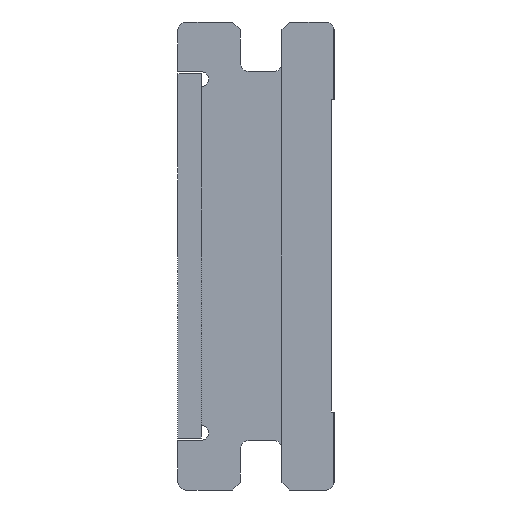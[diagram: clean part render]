
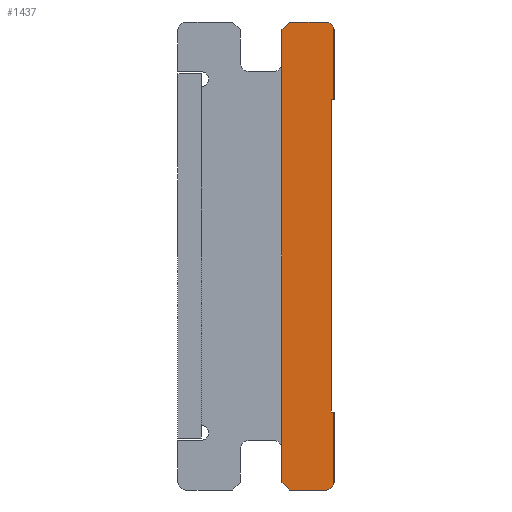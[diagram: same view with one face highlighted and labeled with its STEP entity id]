
A CAD part, left-side view. The second image highlights one B-rep face of the part: STEP entity #1437.
In plain terms, the highlighted planar face has unit normal (-1, 0, 0).
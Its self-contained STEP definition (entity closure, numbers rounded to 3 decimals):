
#40 = DIRECTION ( 'NONE',  ( 0., 0., 1. ) ) ;
#48 = CARTESIAN_POINT ( 'NONE',  ( 0., 5.1, -15.8 ) ) ;
#58 = DIRECTION ( 'NONE',  ( 0., 1., 0. ) ) ;
#59 = VERTEX_POINT ( 'NONE', #1578 ) ;
#109 = DIRECTION ( 'NONE',  ( 0., 1., 0. ) ) ;
#141 = LINE ( 'NONE', #884, #1672 ) ;
#187 = DIRECTION ( 'NONE',  ( 0., 0., -1. ) ) ;
#231 = FACE_OUTER_BOUND ( 'NONE', #2326, .T. ) ;
#240 = EDGE_CURVE ( 'NONE', #2107, #1531, #2189, .T. ) ;
#252 = CIRCLE ( 'NONE', #703, 0.3 ) ;
#373 = CARTESIAN_POINT ( 'NONE',  ( 0., 0.3, -18. ) ) ;
#378 = DIRECTION ( 'NONE',  ( 0., -1., 0. ) ) ;
#401 = PLANE ( 'NONE',  #774 ) ;
#437 = ORIENTED_EDGE ( 'NONE', *, *, #240, .F. ) ;
#458 = CARTESIAN_POINT ( 'NONE',  ( 0., 1.7, -18. ) ) ;
#469 = EDGE_CURVE ( 'NONE', #834, #2107, #1089, .T. ) ;
#484 = ORIENTED_EDGE ( 'NONE', *, *, #1894, .F. ) ;
#508 = VECTOR ( 'NONE', #109, 1000. ) ;
#509 = CARTESIAN_POINT ( 'NONE',  ( 0., 0.3, -18. ) ) ;
#514 = CARTESIAN_POINT ( 'NONE',  ( 0., 0.1, -3. ) ) ;
#515 = VECTOR ( 'NONE', #187, 1000. ) ;
#523 = LINE ( 'NONE', #1313, #1786 ) ;
#534 = CARTESIAN_POINT ( 'NONE',  ( 0., 0., -15. ) ) ;
#540 = CARTESIAN_POINT ( 'NONE',  ( 0., 0.3, -17.7 ) ) ;
#593 = CARTESIAN_POINT ( 'NONE',  ( 0., 0.3, -0.3 ) ) ;
#601 = EDGE_CURVE ( 'NONE', #1567, #1130, #2325, .T. ) ;
#627 = CARTESIAN_POINT ( 'NONE',  ( 0., 1.7, -18. ) ) ;
#643 = EDGE_CURVE ( 'NONE', #59, #1848, #252, .T. ) ;
#667 = ORIENTED_EDGE ( 'NONE', *, *, #2154, .F. ) ;
#668 = CARTESIAN_POINT ( 'NONE',  ( 0., 0., -15. ) ) ;
#703 = AXIS2_PLACEMENT_3D ( 'NONE', #593, #1364, #40 ) ;
#721 = CIRCLE ( 'NONE', #2417, 0.3 ) ;
#766 = ORIENTED_EDGE ( 'NONE', *, *, #1079, .F. ) ;
#770 = VERTEX_POINT ( 'NONE', #869 ) ;
#774 = AXIS2_PLACEMENT_3D ( 'NONE', #48, #1015, #58 ) ;
#778 = LINE ( 'NONE', #1909, #2225 ) ;
#834 = VERTEX_POINT ( 'NONE', #1722 ) ;
#869 = CARTESIAN_POINT ( 'NONE',  ( 0., 0., -3. ) ) ;
#884 = CARTESIAN_POINT ( 'NONE',  ( 0., 1.7, 0. ) ) ;
#928 = CARTESIAN_POINT ( 'NONE',  ( 0., 0.1, -3. ) ) ;
#934 = ORIENTED_EDGE ( 'NONE', *, *, #643, .F. ) ;
#938 = DIRECTION ( 'NONE',  ( 0., -1., 0. ) ) ;
#966 = CARTESIAN_POINT ( 'NONE',  ( 0., 2., -17.7 ) ) ;
#967 = VECTOR ( 'NONE', #1265, 1000. ) ;
#1015 = DIRECTION ( 'NONE',  ( 1., 0., 0. ) ) ;
#1079 = EDGE_CURVE ( 'NONE', #1531, #1342, #721, .T. ) ;
#1084 = EDGE_CURVE ( 'NONE', #1581, #1567, #2305, .T. ) ;
#1089 = LINE ( 'NONE', #534, #1624 ) ;
#1114 = ORIENTED_EDGE ( 'NONE', *, *, #469, .F. ) ;
#1122 = LINE ( 'NONE', #928, #515 ) ;
#1130 = VERTEX_POINT ( 'NONE', #1938 ) ;
#1133 = VECTOR ( 'NONE', #1588, 1000. ) ;
#1206 = CARTESIAN_POINT ( 'NONE',  ( 0., 2., -17.7 ) ) ;
#1265 = DIRECTION ( 'NONE',  ( 0., 1., 0. ) ) ;
#1311 = DIRECTION ( 'NONE',  ( 1., 0., 0. ) ) ;
#1313 = CARTESIAN_POINT ( 'NONE',  ( 0., 0., -0.3 ) ) ;
#1342 = VERTEX_POINT ( 'NONE', #373 ) ;
#1353 = ORIENTED_EDGE ( 'NONE', *, *, #2381, .F. ) ;
#1364 = DIRECTION ( 'NONE',  ( 1., 0., 0. ) ) ;
#1378 = DIRECTION ( 'NONE',  ( 0., 0.707, 0.707 ) ) ;
#1423 = CARTESIAN_POINT ( 'NONE',  ( 0., 0., -15. ) ) ;
#1437 = ADVANCED_FACE ( 'NONE', ( #231 ), #401, .F. ) ;
#1476 = ORIENTED_EDGE ( 'NONE', *, *, #1084, .F. ) ;
#1499 = VECTOR ( 'NONE', #2179, 1000. ) ;
#1531 = VERTEX_POINT ( 'NONE', #2067 ) ;
#1567 = VERTEX_POINT ( 'NONE', #966 ) ;
#1578 = CARTESIAN_POINT ( 'NONE',  ( 0., 0.3, 0. ) ) ;
#1581 = VERTEX_POINT ( 'NONE', #458 ) ;
#1588 = DIRECTION ( 'NONE',  ( 0., 0., 1. ) ) ;
#1624 = VECTOR ( 'NONE', #378, 1000. ) ;
#1625 = LINE ( 'NONE', #509, #508 ) ;
#1647 = LINE ( 'NONE', #1990, #967 ) ;
#1672 = VECTOR ( 'NONE', #2219, 1000. ) ;
#1693 = DIRECTION ( 'NONE',  ( 0., 0., -1. ) ) ;
#1710 = VERTEX_POINT ( 'NONE', #514 ) ;
#1722 = CARTESIAN_POINT ( 'NONE',  ( 0., 0.1, -15. ) ) ;
#1743 = ORIENTED_EDGE ( 'NONE', *, *, #1977, .F. ) ;
#1768 = CARTESIAN_POINT ( 'NONE',  ( 0., 0., -0.3 ) ) ;
#1786 = VECTOR ( 'NONE', #2441, 1000. ) ;
#1848 = VERTEX_POINT ( 'NONE', #1768 ) ;
#1894 = EDGE_CURVE ( 'NONE', #1130, #1926, #141, .T. ) ;
#1909 = CARTESIAN_POINT ( 'NONE',  ( 0., 0.3, 0. ) ) ;
#1926 = VERTEX_POINT ( 'NONE', #2432 ) ;
#1938 = CARTESIAN_POINT ( 'NONE',  ( 0., 2., -0.3 ) ) ;
#1942 = EDGE_CURVE ( 'NONE', #1926, #59, #778, .T. ) ;
#1977 = EDGE_CURVE ( 'NONE', #1710, #834, #1122, .T. ) ;
#1990 = CARTESIAN_POINT ( 'NONE',  ( 0., 0., -3. ) ) ;
#2021 = ORIENTED_EDGE ( 'NONE', *, *, #2114, .F. ) ;
#2066 = ORIENTED_EDGE ( 'NONE', *, *, #1942, .F. ) ;
#2067 = CARTESIAN_POINT ( 'NONE',  ( 0., 0., -17.7 ) ) ;
#2107 = VERTEX_POINT ( 'NONE', #1423 ) ;
#2112 = VECTOR ( 'NONE', #1378, 1000. ) ;
#2114 = EDGE_CURVE ( 'NONE', #770, #1710, #1647, .T. ) ;
#2154 = EDGE_CURVE ( 'NONE', #1342, #1581, #1625, .T. ) ;
#2179 = DIRECTION ( 'NONE',  ( 0., 0., -1. ) ) ;
#2189 = LINE ( 'NONE', #668, #1499 ) ;
#2219 = DIRECTION ( 'NONE',  ( 0., -0.707, 0.707 ) ) ;
#2225 = VECTOR ( 'NONE', #938, 1000. ) ;
#2305 = LINE ( 'NONE', #627, #2112 ) ;
#2325 = LINE ( 'NONE', #1206, #1133 ) ;
#2326 = EDGE_LOOP ( 'NONE', ( #484, #2427, #1476, #667, #766, #437, #1114, #1743, #2021, #1353, #934, #2066 ) ) ;
#2381 = EDGE_CURVE ( 'NONE', #1848, #770, #523, .T. ) ;
#2417 = AXIS2_PLACEMENT_3D ( 'NONE', #540, #1311, #1693 ) ;
#2427 = ORIENTED_EDGE ( 'NONE', *, *, #601, .F. ) ;
#2432 = CARTESIAN_POINT ( 'NONE',  ( 0., 1.7, 0. ) ) ;
#2441 = DIRECTION ( 'NONE',  ( 0., 0., -1. ) ) ;
